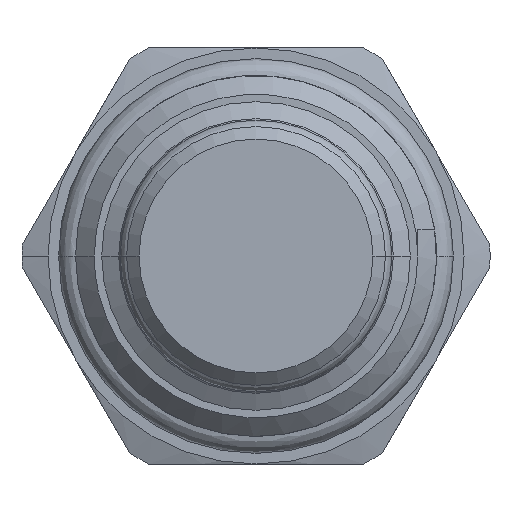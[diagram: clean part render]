
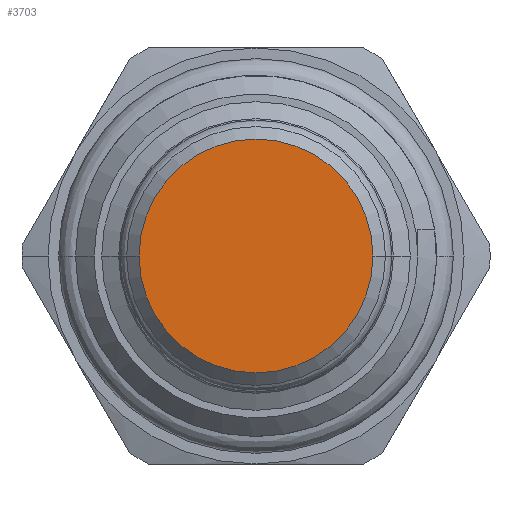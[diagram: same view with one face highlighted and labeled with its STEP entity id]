
A CAD part, front view. The second image highlights one B-rep face of the part: STEP entity #3703.
In plain terms, the highlighted planar face has unit normal (0, -1, 0).
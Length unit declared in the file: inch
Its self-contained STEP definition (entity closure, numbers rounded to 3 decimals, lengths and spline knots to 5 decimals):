
#1476=CARTESIAN_POINT('',(0.,-1.253,0.));
#1477=DIRECTION('',(0.,-1.,0.));
#1478=DIRECTION('',(1.,0.,0.));
#1479=AXIS2_PLACEMENT_3D('',#1476,#1477,#1478);
#1486=CARTESIAN_POINT('',(0.,-1.253,0.));
#1487=DIRECTION('',(0.,-1.,0.));
#1488=DIRECTION('',(-1.,0.,0.));
#1489=AXIS2_PLACEMENT_3D('',#1486,#1487,#1488);
#1543=CARTESIAN_POINT('',(0.281,-1.253,0.));
#1544=CARTESIAN_POINT('',(-0.281,-1.253,0.));
#1545=VERTEX_POINT('',#1543);
#1546=VERTEX_POINT('',#1544);
#3693=CARTESIAN_POINT('',(0.,-1.253,0.));
#3694=DIRECTION('',(0.,1.,0.));
#3695=DIRECTION('',(1.,0.,0.));
#3696=AXIS2_PLACEMENT_3D('',#3693,#3694,#3695);
#3697=PLANE('',#3696);
#3699=ORIENTED_EDGE('',*,*,#3698,.F.);
#3700=ORIENTED_EDGE('',*,*,#3683,.F.);
#3701=EDGE_LOOP('',(#3699,#3700));
#3702=FACE_OUTER_BOUND('',#3701,.F.);
#3703=ADVANCED_FACE('',(#3702),#3697,.F.);
#1480=CIRCLE('',#1479,0.281);
#1490=CIRCLE('',#1489,0.281);
#3683=EDGE_CURVE('',#1545,#1546,#1480,.T.);
#3698=EDGE_CURVE('',#1546,#1545,#1490,.T.);
